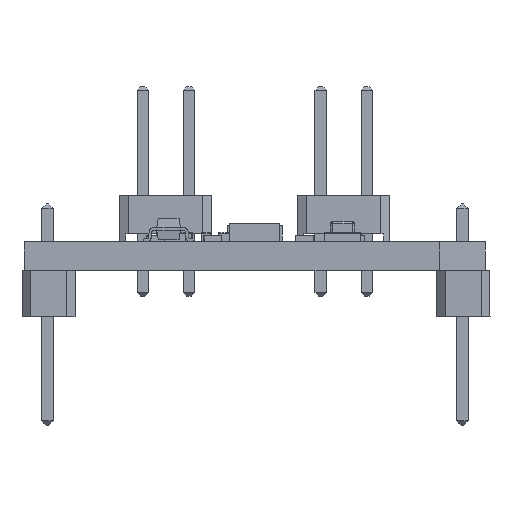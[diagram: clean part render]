
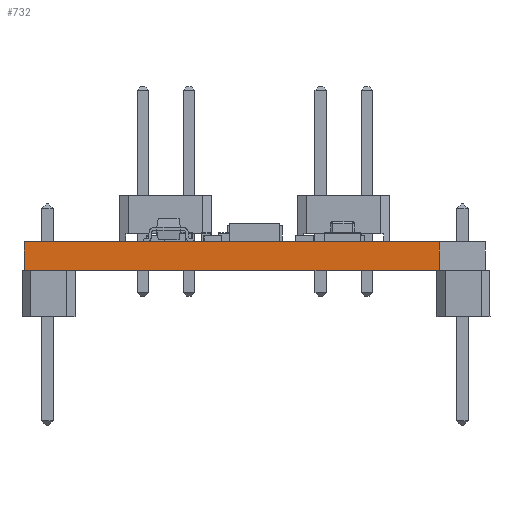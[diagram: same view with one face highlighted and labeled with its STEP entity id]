
A CAD part, front view. The second image highlights one B-rep face of the part: STEP entity #732.
In plain terms, the highlighted planar face has unit normal (0, -1, 0).
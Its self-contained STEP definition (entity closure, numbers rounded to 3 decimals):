
#707 = VERTEX_POINT('',#708);
#708 = CARTESIAN_POINT('',(21.59,-3.81,0.));
#714 = EDGE_CURVE('',#715,#707,#717,.T.);
#715 = VERTEX_POINT('',#716);
#716 = CARTESIAN_POINT('',(21.59,-3.81,-1.59));
#717 = LINE('',#718,#719);
#718 = CARTESIAN_POINT('',(21.59,-3.81,-1.59));
#719 = VECTOR('',#720,1.);
#720 = DIRECTION('',(0.,0.,1.));
#732 = ADVANCED_FACE('',(#733),#758,.T.);
#733 = FACE_BOUND('',#734,.T.);
#734 = EDGE_LOOP('',(#735,#736,#744,#752));
#735 = ORIENTED_EDGE('',*,*,#714,.T.);
#736 = ORIENTED_EDGE('',*,*,#737,.T.);
#737 = EDGE_CURVE('',#707,#738,#740,.T.);
#738 = VERTEX_POINT('',#739);
#739 = CARTESIAN_POINT('',(-1.27,-3.81,0.));
#740 = LINE('',#741,#742);
#741 = CARTESIAN_POINT('',(21.59,-3.81,0.));
#742 = VECTOR('',#743,1.);
#743 = DIRECTION('',(-1.,0.,0.));
#744 = ORIENTED_EDGE('',*,*,#745,.F.);
#745 = EDGE_CURVE('',#746,#738,#748,.T.);
#746 = VERTEX_POINT('',#747);
#747 = CARTESIAN_POINT('',(-1.27,-3.81,-1.59));
#748 = LINE('',#749,#750);
#749 = CARTESIAN_POINT('',(-1.27,-3.81,-1.59));
#750 = VECTOR('',#751,1.);
#751 = DIRECTION('',(0.,0.,1.));
#752 = ORIENTED_EDGE('',*,*,#753,.F.);
#753 = EDGE_CURVE('',#715,#746,#754,.T.);
#754 = LINE('',#755,#756);
#755 = CARTESIAN_POINT('',(21.59,-3.81,-1.59));
#756 = VECTOR('',#757,1.);
#757 = DIRECTION('',(-1.,0.,0.));
#758 = PLANE('',#759);
#759 = AXIS2_PLACEMENT_3D('',#760,#761,#762);
#760 = CARTESIAN_POINT('',(21.59,-3.81,-1.59));
#761 = DIRECTION('',(0.,-1.,0.));
#762 = DIRECTION('',(-1.,0.,0.));
